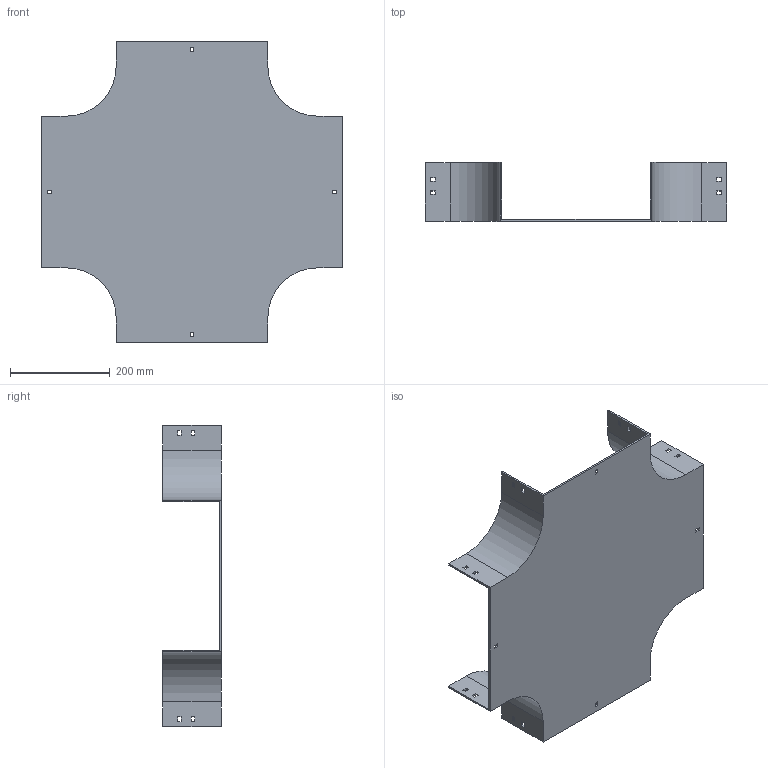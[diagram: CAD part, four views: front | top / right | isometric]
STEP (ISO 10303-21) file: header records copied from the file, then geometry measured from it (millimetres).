
FILE_DESCRIPTION (( 'STEP AP214' ), '1' );
FILE_NAME ('17B1J300.step', '2025-02-21T09:56:42', ( '' ), ( '' ), 'SwSTEP 2.0', 'SolidWorks 2023', '' );
FILE_SCHEMA (( 'AUTOMOTIVE_DESIGN' ));
Length unit declared in the file: millimetre
Products named in the file (1): 17B1J300
Bounding box: 604 x 117.5 x 604 mm (x, y, z)
Volume: 1401847.6 mm3; surface area: 814440.9 mm2
Topology: 1 solids, 1 shells, 114 faces, 336 edges, 224 vertices
Faces by surface type: plane 106, cylinder 8
Entity records: 3839 total; most frequent: CARTESIAN_POINT 675, ORIENTED_EDGE 672, DIRECTION 582, EDGE_CURVE 336, LINE 320, VECTOR 320, VERTEX_POINT 224, EDGE_LOOP 154
